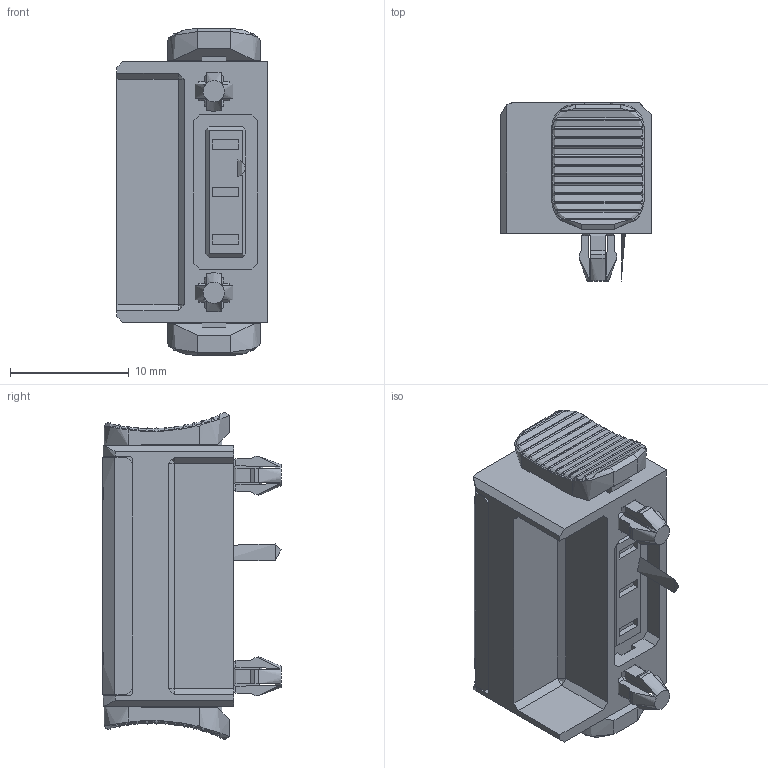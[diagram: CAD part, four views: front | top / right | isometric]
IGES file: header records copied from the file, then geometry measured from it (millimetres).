
Global section: file name: 21.03.212.113.1; native system: unknown; preprocessor: unknown; author: unknown; organization: unknown; date: 20221116.135720; units: millimetre
Bounding box: 12.7 x 15.02 x 27.62 mm (x, y, z)
Volume: 2594.5 mm3; surface area: 2278.8 mm2
Topology: 1 solids, 1 shells, 861 faces, 2399 edges, 1524 vertices
Faces by surface type: bspline 861
